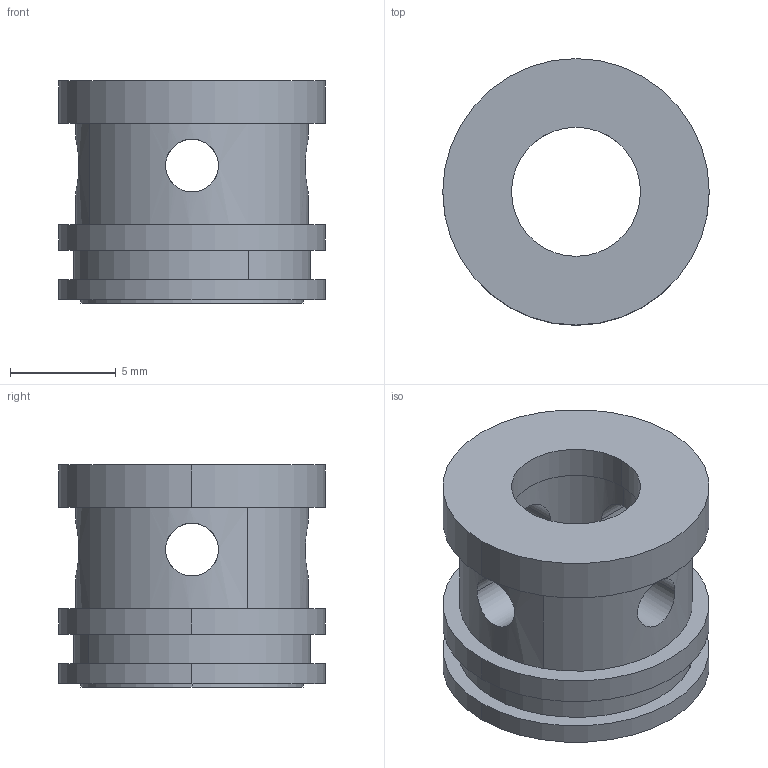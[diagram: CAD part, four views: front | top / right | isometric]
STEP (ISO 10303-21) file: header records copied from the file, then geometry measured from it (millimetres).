
FILE_DESCRIPTION(('CATIA V5 STEP Exchange'),'2;1');
FILE_NAME('C:\Users\Administrator\Desktop\LS42.18_V1支撑圈D.stp','2020-04-02T01:51:12+00:00',('none'),('none'),'CATIA Version 5 Release 21 GA (IN-10)','CATIA V5 STEP AP214','none');
FILE_SCHEMA(('AUTOMOTIVE_DESIGN { 1 0 10303 214 1 1 1 1 }'));
Length unit declared in the file: millimetre
Products named in the file (1): Copy (1) of 支撑圈B
Bounding box: 12.6 x 12.6 x 10.5 mm (x, y, z)
Volume: 701.8 mm3; surface area: 942.4 mm2
Topology: 1 solids, 1 shells, 35 faces, 88 edges, 60 vertices
Faces by surface type: cylinder 26, plane 9
Entity records: 1121 total; most frequent: CARTESIAN_POINT 337, ORIENTED_EDGE 176, DIRECTION 104, EDGE_CURVE 88, VERTEX_POINT 60, AXIS2_PLACEMENT_3D 57, EDGE_LOOP 50, CIRCLE 36
